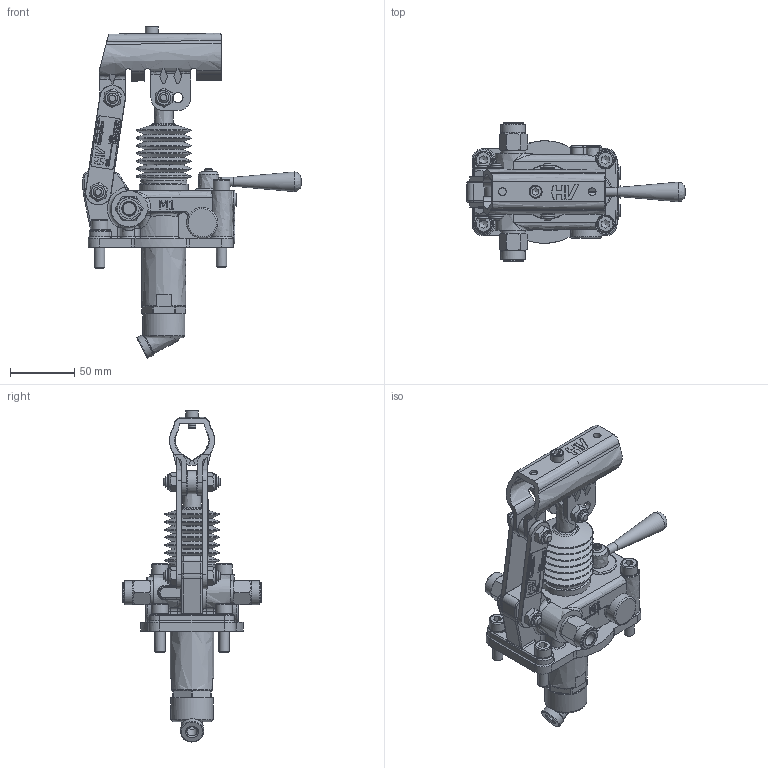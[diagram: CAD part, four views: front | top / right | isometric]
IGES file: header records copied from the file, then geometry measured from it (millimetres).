
Global section: file name: No Iges File Name specified; native system: Autodesk Inventor 2013; preprocessor: AutoDesk Inventor Iges Exporter R2013; author: christian.scardovi; date: 20240307.133313; units: millimetre
Bounding box: 170 x 108 x 258.8 mm (x, y, z)
Volume: 463587.7 mm3; surface area: 116095.9 mm2
Topology: 3 solids, 3 shells, 1529 faces, 3887 edges, 2465 vertices
Faces by surface type: bspline 1529
